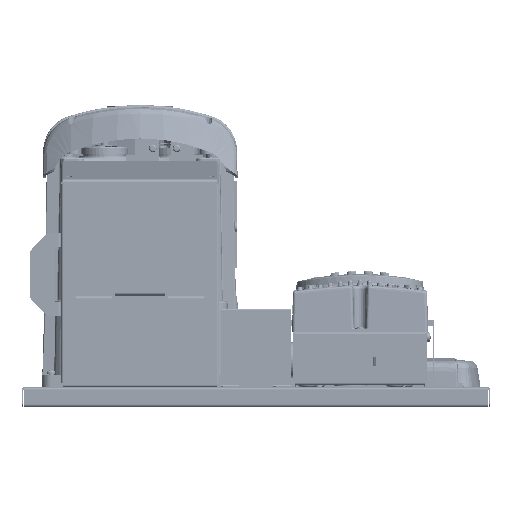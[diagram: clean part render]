
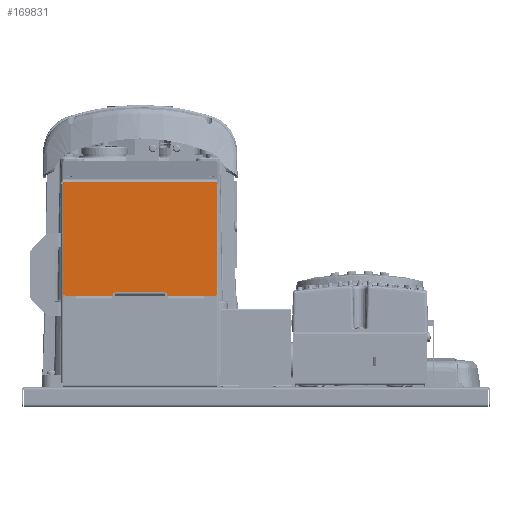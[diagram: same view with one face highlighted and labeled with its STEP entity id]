
A CAD part, front view. The second image highlights one B-rep face of the part: STEP entity #169831.
In plain terms, the highlighted planar face has unit normal (0, -1, 0).
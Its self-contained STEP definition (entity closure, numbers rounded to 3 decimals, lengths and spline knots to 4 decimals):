
#63 = ORIENTED_EDGE ( 'NONE', *, *, #404383, .F. ) ;
#5606 = CARTESIAN_POINT ( 'NONE',  ( 3.442, -15.7932, -51.8148 ) ) ;
#12261 = CARTESIAN_POINT ( 'NONE',  ( -2.933, -15.7932, -47.0294 ) ) ;
#38217 = DIRECTION ( 'NONE',  ( -1., 0., 0. ) ) ;
#41482 = CARTESIAN_POINT ( 'NONE',  ( -0.808, -15.7932, -51.8148 ) ) ;
#44695 = VECTOR ( 'NONE', #375998, 39.3701 ) ;
#64764 = VERTEX_POINT ( 'NONE', #457070 ) ;
#64964 = CARTESIAN_POINT ( 'NONE',  ( 3.567, -15.7932, -47.0294 ) ) ;
#66194 = VECTOR ( 'NONE', #663223, 39.3701 ) ;
#67305 = CARTESIAN_POINT ( 'NONE',  ( 1.382, -15.7932, -51.6774 ) ) ;
#73431 = VERTEX_POINT ( 'NONE', #675774 ) ;
#75374 = AXIS2_PLACEMENT_3D ( 'NONE', #408105, #916537, #124120 ) ;
#82696 = CARTESIAN_POINT ( 'NONE',  ( -2.933, -15.7932, -51.8148 ) ) ;
#88236 = ORIENTED_EDGE ( 'NONE', *, *, #781695, .T. ) ;
#95290 = VECTOR ( 'NONE', #554032, 39.3701 ) ;
#97335 = EDGE_CURVE ( 'NONE', #64764, #275753, #198904, .T. ) ;
#109197 = LINE ( 'NONE', #312240, #712675 ) ;
#111993 = LINE ( 'NONE', #82696, #44695 ) ;
#113091 = EDGE_CURVE ( 'NONE', #587805, #495949, #251094, .T. ) ;
#119102 = DIRECTION ( 'NONE',  ( 0., -1., 0. ) ) ;
#124120 = DIRECTION ( 'NONE',  ( 0., 0., 1. ) ) ;
#147571 = CARTESIAN_POINT ( 'NONE',  ( 1.382, -15.7932, -47.0023 ) ) ;
#156047 = DIRECTION ( 'NONE',  ( 1., 0., 0. ) ) ;
#160962 = CARTESIAN_POINT ( 'NONE',  ( -0.808, -15.7932, -51.8148 ) ) ;
#166930 = AXIS2_PLACEMENT_3D ( 'NONE', #827365, #119102, #399991 ) ;
#169831 = ADVANCED_FACE ( 'NONE', ( #183264 ), #501597, .F. ) ;
#176488 = VECTOR ( 'NONE', #194602, 39.3701 ) ;
#183264 = FACE_OUTER_BOUND ( 'NONE', #308331, .T. ) ;
#185514 = AXIS2_PLACEMENT_3D ( 'NONE', #645163, #648201, #779358 ) ;
#190562 = CARTESIAN_POINT ( 'NONE',  ( -0.748, -15.7932, -51.6898 ) ) ;
#190966 = ORIENTED_EDGE ( 'NONE', *, *, #676280, .T. ) ;
#194391 = VERTEX_POINT ( 'NONE', #539364 ) ;
#194602 = DIRECTION ( 'NONE',  ( 1., 0., 0. ) ) ;
#198904 = LINE ( 'NONE', #403773, #176488 ) ;
#201785 = CARTESIAN_POINT ( 'NONE',  ( 3.567, -15.7932, -47.0023 ) ) ;
#224302 = VERTEX_POINT ( 'NONE', #41482 ) ;
#228701 = VECTOR ( 'NONE', #372871, 39.3701 ) ;
#251094 = LINE ( 'NONE', #307218, #228701 ) ;
#258690 = LINE ( 'NONE', #64964, #906026 ) ;
#267028 = CARTESIAN_POINT ( 'NONE',  ( 1.442, -15.7932, -51.8148 ) ) ;
#275753 = VERTEX_POINT ( 'NONE', #5606 ) ;
#276102 = VECTOR ( 'NONE', #844514, 39.3701 ) ;
#277290 = ORIENTED_EDGE ( 'NONE', *, *, #390367, .T. ) ;
#297813 = CARTESIAN_POINT ( 'NONE',  ( -0.808, -15.7932, -51.6898 ) ) ;
#304558 = ORIENTED_EDGE ( 'NONE', *, *, #113091, .T. ) ;
#307218 = CARTESIAN_POINT ( 'NONE',  ( -0.748, -15.7932, -51.6774 ) ) ;
#308331 = EDGE_LOOP ( 'NONE', ( #277290, #190966, #695461, #63, #869912, #709001, #304558, #902671, #693698, #315424, #832973, #88236, #561987, #792154 ) ) ;
#309168 = DIRECTION ( 'NONE',  ( -1., 0., 0. ) ) ;
#312240 = CARTESIAN_POINT ( 'NONE',  ( -0.808, -15.7932, -51.6898 ) ) ;
#315424 = ORIENTED_EDGE ( 'NONE', *, *, #836911, .F. ) ;
#324342 = CARTESIAN_POINT ( 'NONE',  ( 1.382, -15.7932, -51.6898 ) ) ;
#348453 = CARTESIAN_POINT ( 'NONE',  ( -0.748, -15.7932, -47.0023 ) ) ;
#372871 = DIRECTION ( 'NONE',  ( 1., 0., 0. ) ) ;
#375998 = DIRECTION ( 'NONE',  ( 0., 0., -1. ) ) ;
#390367 = EDGE_CURVE ( 'NONE', #831229, #73431, #111993, .T. ) ;
#397790 = VERTEX_POINT ( 'NONE', #190562 ) ;
#399991 = DIRECTION ( 'NONE',  ( 0., 0., 1. ) ) ;
#403773 = CARTESIAN_POINT ( 'NONE',  ( 3.567, -15.7932, -51.8148 ) ) ;
#404383 = EDGE_CURVE ( 'NONE', #901097, #224302, #915036, .T. ) ;
#408105 = CARTESIAN_POINT ( 'NONE',  ( -2.808, -15.7932, -51.6898 ) ) ;
#409003 = VECTOR ( 'NONE', #38217, 39.3701 ) ;
#449532 = CARTESIAN_POINT ( 'NONE',  ( -0.748, -15.7932, -51.6774 ) ) ;
#457070 = CARTESIAN_POINT ( 'NONE',  ( 1.442, -15.7932, -51.8148 ) ) ;
#471374 = VECTOR ( 'NONE', #156047, 39.3701 ) ;
#476815 = EDGE_CURVE ( 'NONE', #831229, #194391, #258690, .T. ) ;
#483046 = LINE ( 'NONE', #792467, #471374 ) ;
#495949 = VERTEX_POINT ( 'NONE', #67305 ) ;
#501597 = PLANE ( 'NONE',  #185514 ) ;
#519700 = LINE ( 'NONE', #267028, #95290 ) ;
#529670 = CIRCLE ( 'NONE', #166930, 0.125 ) ;
#537500 = CARTESIAN_POINT ( 'NONE',  ( -2.808, -15.7932, -51.8148 ) ) ;
#539364 = CARTESIAN_POINT ( 'NONE',  ( 3.567, -15.7932, -47.0294 ) ) ;
#544681 = VERTEX_POINT ( 'NONE', #630312 ) ;
#550612 = CIRCLE ( 'NONE', #75374, 0.125 ) ;
#551847 = DIRECTION ( 'NONE',  ( 1., 0., 0. ) ) ;
#554032 = DIRECTION ( 'NONE',  ( 0., 0., 1. ) ) ;
#561987 = ORIENTED_EDGE ( 'NONE', *, *, #871190, .T. ) ;
#567569 = EDGE_CURVE ( 'NONE', #544681, #579495, #109197, .T. ) ;
#579495 = VERTEX_POINT ( 'NONE', #324342 ) ;
#582314 = EDGE_CURVE ( 'NONE', #587805, #397790, #633326, .T. ) ;
#587805 = VERTEX_POINT ( 'NONE', #449532 ) ;
#630312 = CARTESIAN_POINT ( 'NONE',  ( 1.442, -15.7932, -51.6898 ) ) ;
#633326 = LINE ( 'NONE', #348453, #276102 ) ;
#645163 = CARTESIAN_POINT ( 'NONE',  ( 3.567, -15.7932, -47.0023 ) ) ;
#648201 = DIRECTION ( 'NONE',  ( 0., 1., 0. ) ) ;
#655143 = EDGE_CURVE ( 'NONE', #875898, #224302, #483046, .T. ) ;
#663223 = DIRECTION ( 'NONE',  ( 0., 0., -1. ) ) ;
#675774 = CARTESIAN_POINT ( 'NONE',  ( -2.933, -15.7932, -51.6898 ) ) ;
#676280 = EDGE_CURVE ( 'NONE', #73431, #875898, #550612, .T. ) ;
#693698 = ORIENTED_EDGE ( 'NONE', *, *, #567569, .F. ) ;
#695461 = ORIENTED_EDGE ( 'NONE', *, *, #655143, .T. ) ;
#696575 = LINE ( 'NONE', #147571, #819121 ) ;
#699467 = EDGE_CURVE ( 'NONE', #579495, #495949, #696575, .T. ) ;
#702651 = CARTESIAN_POINT ( 'NONE',  ( 3.567, -15.7932, -51.6898 ) ) ;
#705750 = VECTOR ( 'NONE', #838273, 39.3701 ) ;
#709001 = ORIENTED_EDGE ( 'NONE', *, *, #582314, .F. ) ;
#712675 = VECTOR ( 'NONE', #309168, 39.3701 ) ;
#728087 = LINE ( 'NONE', #201785, #705750 ) ;
#777851 = EDGE_CURVE ( 'NONE', #397790, #901097, #788495, .T. ) ;
#779358 = DIRECTION ( 'NONE',  ( 0., 0., 1. ) ) ;
#781695 = EDGE_CURVE ( 'NONE', #275753, #909178, #529670, .T. ) ;
#788495 = LINE ( 'NONE', #297813, #409003 ) ;
#792154 = ORIENTED_EDGE ( 'NONE', *, *, #476815, .F. ) ;
#792467 = CARTESIAN_POINT ( 'NONE',  ( 3.567, -15.7932, -51.8148 ) ) ;
#800974 = CARTESIAN_POINT ( 'NONE',  ( -0.808, -15.7932, -51.6898 ) ) ;
#802515 = DIRECTION ( 'NONE',  ( 0., 0., 1. ) ) ;
#819121 = VECTOR ( 'NONE', #802515, 39.3701 ) ;
#827365 = CARTESIAN_POINT ( 'NONE',  ( 3.442, -15.7932, -51.6898 ) ) ;
#831229 = VERTEX_POINT ( 'NONE', #12261 ) ;
#832973 = ORIENTED_EDGE ( 'NONE', *, *, #97335, .T. ) ;
#836911 = EDGE_CURVE ( 'NONE', #64764, #544681, #519700, .T. ) ;
#838273 = DIRECTION ( 'NONE',  ( 0., 0., 1. ) ) ;
#844514 = DIRECTION ( 'NONE',  ( 0., 0., -1. ) ) ;
#869912 = ORIENTED_EDGE ( 'NONE', *, *, #777851, .F. ) ;
#871190 = EDGE_CURVE ( 'NONE', #909178, #194391, #728087, .T. ) ;
#875898 = VERTEX_POINT ( 'NONE', #537500 ) ;
#901097 = VERTEX_POINT ( 'NONE', #800974 ) ;
#902671 = ORIENTED_EDGE ( 'NONE', *, *, #699467, .F. ) ;
#906026 = VECTOR ( 'NONE', #551847, 39.3701 ) ;
#909178 = VERTEX_POINT ( 'NONE', #702651 ) ;
#915036 = LINE ( 'NONE', #160962, #66194 ) ;
#916537 = DIRECTION ( 'NONE',  ( 0., -1., 0. ) ) ;
